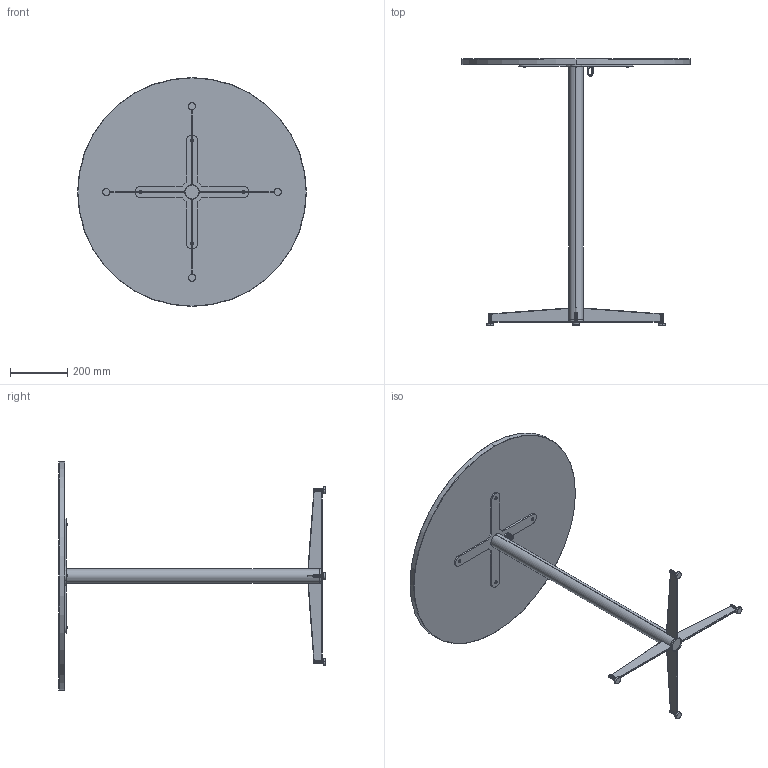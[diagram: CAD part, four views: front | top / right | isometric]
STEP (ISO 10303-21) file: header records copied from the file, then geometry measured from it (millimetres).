
FILE_DESCRIPTION (( 'STEP AP214' ), '1' );
FILE_NAME ('Nook Counter Table Ø80.STEP', '2025-10-03T12:08:18', ( '' ), ( '' ), 'SwSTEP 2.0', 'SolidWorks 2024', '' );
FILE_SCHEMA (( 'AUTOMOTIVE_DESIGN' ));
Length unit declared in the file: millimetre
Products named in the file (10): 085A106_R01 Nook Dining Table X Plate Assembly Steel; 085A201_R01 Nook Dining Table X Plate Steel; SF257M627S-Ackurat; 085A206_R01 Nook Table Leg 6mm Steel test; socket button head screw_iso_ISO 7380 - M6 x 12 - 12N; 085A214_R01 Nook Table inner thread stud; 085B205_R01 Nook Counter Table Leg Joint Steel; 085A207_R01 Nook Tabletop Ø80x2; 085A206_R01 Nook Dining Table Wire Attachment; Nook Counter Table Ø80
Assembly tree (21 placements, depth 3):
  Nook Counter Table Ø80
    085B205_R01 Nook Counter Table Leg Joint Steel
    085A206_R01 Nook Table Leg 6mm Steel test  x4
    085A214_R01 Nook Table inner thread stud  x4
    085A106_R01 Nook Dining Table X Plate Assembly Steel
      085A201_R01 Nook Dining Table X Plate Steel
      085A206_R01 Nook Dining Table Wire Attachment
    SF257M627S-Ackurat  x4
    socket button head screw_iso_ISO 7380 - M6 x 12 - 12N  x4
    085A207_R01 Nook Tabletop Ø80x2
Bounding box: 800 x 931 x 800 mm (x, y, z)
Volume: 10734485.8 mm3; surface area: 1517654.9 mm2
Topology: 20 solids, 20 shells, 574 faces, 1456 edges, 936 vertices
Faces by surface type: cylinder 342, plane 144, cone 36, torus 32, bspline 12, sphere 8
Entity records: 11175 total; most frequent: CARTESIAN_POINT 5943, ORIENTED_EDGE 1054, DIRECTION 1040, EDGE_CURVE 527, AXIS2_PLACEMENT_3D 406, VERTEX_POINT 339, EDGE_LOOP 234, VECTOR 228
